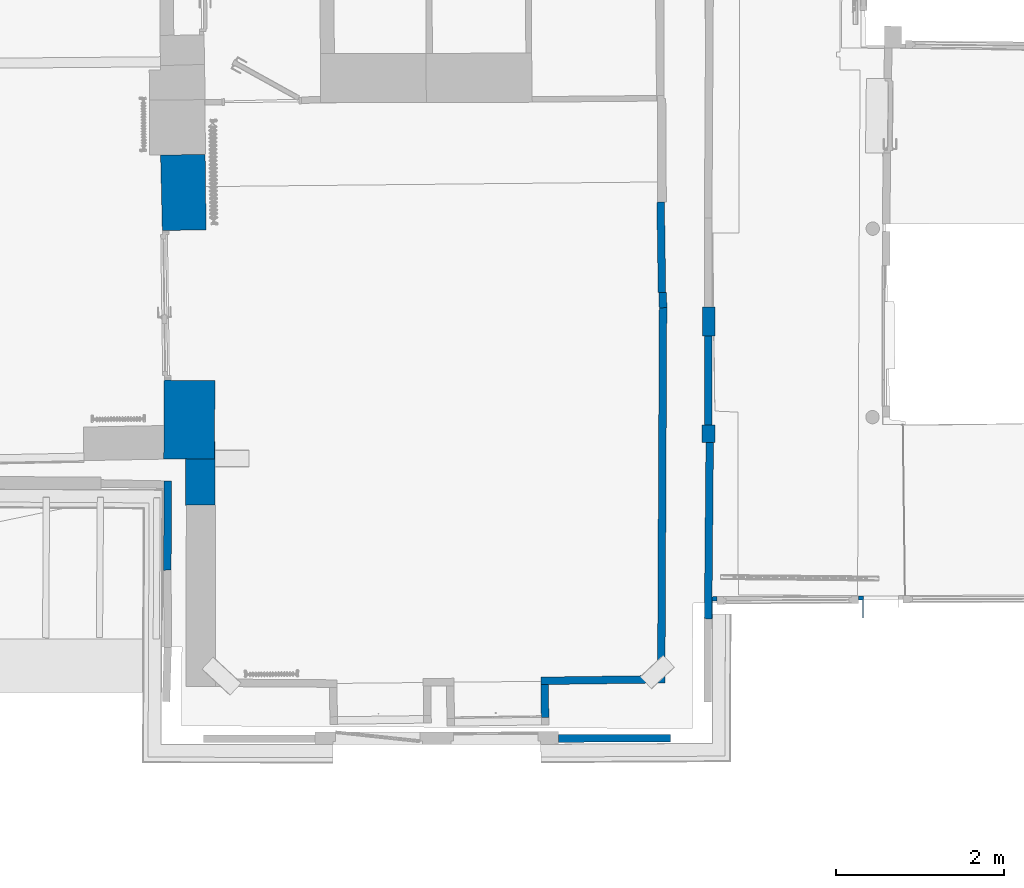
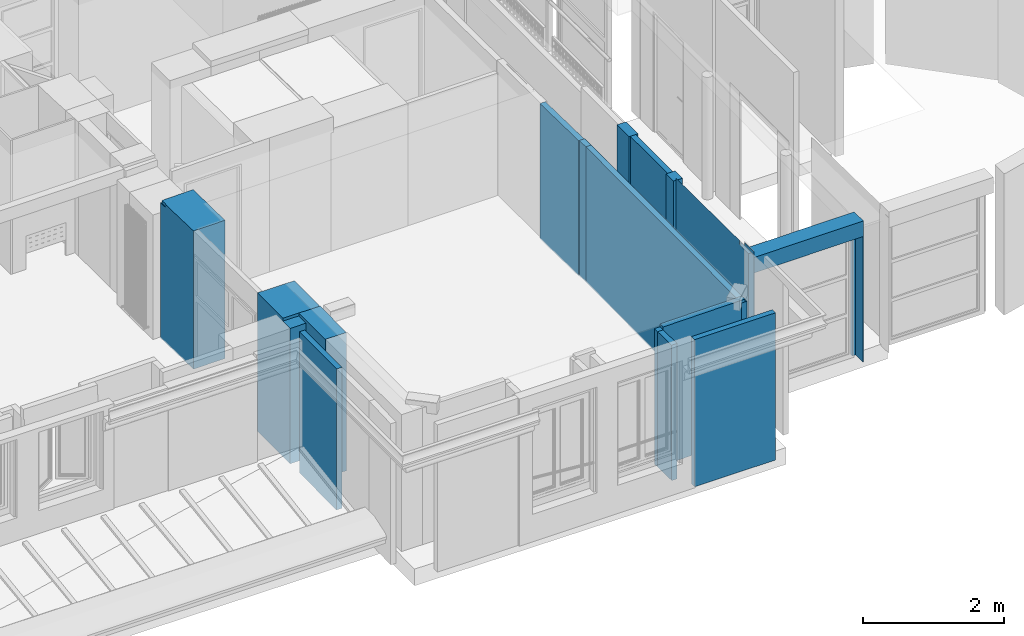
# One storey, part 14 of 72: 15 walls, 1 opening.
"""IFC2X3 building model written with IfcOpenShell, lengths in centimetres."""

import ifcopenshell
import ifcopenshell.guid

model = None  # the IFC model being written
_history = None  # IfcOwnerHistory: only IFC2X3 demands one
_inside = {}  # id of a spatial element -> (the spatial element, [elements in it])
_under = {}  # id of a project, library or spatial element -> (it, [spatial elements below it])
_declared = {}  # id of a project -> (the project, [libraries it declares])
_typed = {}  # id of a type object -> (the type object, [elements of that type])
_made_of = {}  # id of a material, layer set ... -> (it, [elements and type objects made of it])


def new_model(schema):
    """Start an empty IFC model of exactly this schema.

    Asked for "IFC4X3", IfcOpenShell would pick the latest addendum, in which some entities
    have other attributes; the version numbers below select the first issue.
    IFC2X3 requires an IfcOwnerHistory on every rooted entity: one is made here for all.
    """
    global model, _history
    if schema == "IFC4X3":
        model = ifcopenshell.file(schema_version=(4, 3, 0, 0))
    else:
        model = ifcopenshell.file(schema=schema)
    _inside.clear()
    _under.clear()
    _declared.clear()
    _typed.clear()
    _made_of.clear()
    _history = None
    if model.schema == "IFC2X3":
        org = make("IfcOrganization", Name="unknown")
        user = make(
            "IfcPersonAndOrganization",
            ThePerson=make("IfcPerson", FamilyName="unknown"),
            TheOrganization=org,
        )
        app = make(
            "IfcApplication",
            ApplicationDeveloper=org,
            Version="unknown",
            ApplicationFullName="unknown",
            ApplicationIdentifier="unknown",
        )
        _history = make(
            "IfcOwnerHistory",
            OwningUser=user,
            OwningApplication=app,
            ChangeAction="ADDED",
            CreationDate=0,
        )
    return model


def make(cls, **values):
    """One entity of the class cls with the attributes given. An attribute that is None is left unset."""
    return model.create_entity(
        cls, **{name: value for name, value in values.items() if value is not None}
    )


def entity(cls, *values):
    """Any entity or typed value of the class cls, its attributes in the order of the schema. None: left unset."""
    e = model.create_entity(cls)
    for i, value in enumerate(values):
        if value is not None:
            e[i] = value
    return e


def rooted(cls, **values):
    """An entity with a GlobalId (a new one), such as an element, a storey or a relation."""
    return make(cls, GlobalId=ifcopenshell.guid.new(), OwnerHistory=_history, **values)


def si_unit(unit_type, name, prefix=None):
    """IfcSIUnit, for example si_unit("LENGTHUNIT", "METRE", prefix="MILLI")."""
    return make("IfcSIUnit", UnitType=unit_type, Prefix=prefix, Name=name)


def converted_unit(unit_type, name, factor, base, dimensions=None, offset=None):
    """IfcConversionBasedUnit, such as the inch: factor (a typed value) times the base unit."""
    return make(
        "IfcConversionBasedUnit"
        if offset is None
        else "IfcConversionBasedUnitWithOffset",
        ConversionOffset=offset,
        Dimensions=None
        if dimensions is None
        else entity("IfcDimensionalExponents", *dimensions),
        UnitType=unit_type,
        Name=name,
        ConversionFactor=make(
            "IfcMeasureWithUnit", ValueComponent=factor, UnitComponent=base
        ),
    )


def assignment(units):
    """IfcUnitAssignment: the units of a project."""
    return None if units is None else make("IfcUnitAssignment", Units=units)


def point(xyz):
    """IfcCartesianPoint."""
    return None if xyz is None else make("IfcCartesianPoint", Coordinates=xyz)


def direction(xyz):
    """IfcDirection."""
    return None if xyz is None else make("IfcDirection", DirectionRatios=xyz)


def frame(location, z_axis=None, x_axis=None):
    """IfcAxis2Placement3D, a coordinate frame: its origin and axes. An axis left out is left unset."""
    return make(
        "IfcAxis2Placement3D",
        Location=point(location),
        Axis=direction(z_axis),
        RefDirection=direction(x_axis),
    )


def frame_2d(location, x_axis=None):
    """IfcAxis2Placement2D, a coordinate frame in the plane: its origin and x axis."""
    return make(
        "IfcAxis2Placement2D", Location=point(location), RefDirection=direction(x_axis)
    )


def origin():
    """The frame at (0, 0, 0) with its axes left unset."""
    return frame((0.0, 0.0, 0.0))


def origin_with_axes():
    """The frame at (0, 0, 0) with the z axis (0, 0, 1) and the x axis (1, 0, 0) written out."""
    return frame((0.0, 0.0, 0.0), z_axis=(0.0, 0.0, 1.0), x_axis=(1.0, 0.0, 0.0))


def origin_2d_with_axis():
    """The frame at (0, 0) in the plane with the x axis (1, 0) written out."""
    return frame_2d((0.0, 0.0), x_axis=(1.0, 0.0))


def place(relative_to, where):
    """IfcLocalPlacement: puts the frame where relative to a parent placement (None: the world)."""
    return make(
        "IfcLocalPlacement", PlacementRelTo=relative_to, RelativePlacement=where
    )


def context(
    kind, dimensions, precision=None, world=None, true_north=None, identifier=None
):
    """IfcGeometricRepresentationContext, for example the 3D "Model" context."""
    return make(
        "IfcGeometricRepresentationContext",
        ContextIdentifier=identifier,
        ContextType=kind,
        CoordinateSpaceDimension=dimensions,
        Precision=precision,
        WorldCoordinateSystem=world,
        TrueNorth=true_north,
    )


def subcontext(parent, identifier, kind, view, scale=None):
    """IfcGeometricRepresentationSubContext, for example "Body" below "Model"."""
    return make(
        "IfcGeometricRepresentationSubContext",
        ContextIdentifier=identifier,
        ContextType=kind,
        ParentContext=parent,
        TargetScale=scale,
        TargetView=view,
    )


def project(units=None, contexts=None):
    """IfcProject with its units and contexts."""
    return rooted(
        "IfcProject",
        Name="project",
        RepresentationContexts=contexts,
        UnitsInContext=assignment(units),
    )


def spatial(cls, under=None, at=None, **own):
    """A site, building, storey or space (cls), placed at a placement, below another one or the project."""
    s = rooted(cls, ObjectPlacement=at, **own)
    if under is not None:
        _under.setdefault(under.id(), (under, []))[1].append(s)
    return s


def polyline(points):
    """IfcPolyline through the points."""
    return make("IfcPolyline", Points=[point(p) for p in points])


def profile(cls, at=None, kind="AREA", **sizes):
    """A parametric profile (cls). Its sizes go by their IFC names, for example OverallWidth=200.0."""
    return make(cls, ProfileType=kind, Position=at, **sizes)


def rectangle(**sizes):
    """IfcRectangleProfileDef."""
    return profile("IfcRectangleProfileDef", **sizes)


def outline(outer, holes=None, kind="AREA"):
    """IfcArbitraryClosedProfileDef: a profile drawn as a closed curve; with holes, ...WithVoids."""
    if holes is None:
        return make("IfcArbitraryClosedProfileDef", ProfileType=kind, OuterCurve=outer)
    return make(
        "IfcArbitraryProfileDefWithVoids",
        ProfileType=kind,
        OuterCurve=outer,
        InnerCurves=holes,
    )


def extrude(swept, where, along, depth):
    """IfcExtrudedAreaSolid: the profile swept, set in the frame where, extruded along a direction by depth."""
    return make(
        "IfcExtrudedAreaSolid",
        SweptArea=swept,
        Position=where,
        ExtrudedDirection=direction(along),
        Depth=depth,
    )


def clip(a, b, op="DIFFERENCE"):
    """IfcBooleanClippingResult: the solid a cut by the half space b."""
    return make(
        "IfcBooleanClippingResult", Operator=op, FirstOperand=a, SecondOperand=b
    )


def bounded_halfspace(plane, agree, where, boundary):
    """IfcPolygonalBoundedHalfSpace: a half space limited to a polygon's prism."""
    return make(
        "IfcPolygonalBoundedHalfSpace",
        BaseSurface=make("IfcPlane", Position=plane),
        AgreementFlag=agree,
        Position=where,
        PolygonalBoundary=boundary,
    )


def faces_of(points, faces, orient=None, outer=None):
    """IfcFace entities. A face is a list of loops; a loop is a list of indices into points, from 0.

    orient and outer hold one flag for each loop. By default every Orientation is true, the
    first loop of a face is its IfcFaceOuterBound and the others are IfcFaceBound.
    """
    made = []
    for i, loops in enumerate(faces):
        bounds = []
        for j, loop in enumerate(loops):
            is_outer = j == 0 if outer is None else outer[i][j]
            bounds.append(
                make(
                    "IfcFaceOuterBound" if is_outer else "IfcFaceBound",
                    Bound=make("IfcPolyLoop", Polygon=[points[k] for k in loop]),
                    Orientation=True if orient is None else orient[i][j],
                )
            )
        made.append(make("IfcFace", Bounds=bounds))
    return made


def faceted_brep(points, faces, orient=None, outer=None, voids=None):
    """IfcFacetedBrep: a solid bounded by flat faces; with voids (closed shells), ...WithVoids."""
    shared = [point(p) for p in points]
    hull = make("IfcClosedShell", CfsFaces=faces_of(shared, faces, orient, outer))
    if voids is None:
        return make("IfcFacetedBrep", Outer=hull)
    return make(
        "IfcFacetedBrepWithVoids",
        Outer=hull,
        Voids=[
            make(cls, CfsFaces=faces_of(shared, fs, o, b)) for cls, fs, o, b in voids
        ],
    )


def shape(context_of_items, identifier, shape_type, items):
    """IfcShapeRepresentation: the items that make up one representation, for example the "Body"."""
    return make(
        "IfcShapeRepresentation",
        ContextOfItems=context_of_items,
        RepresentationIdentifier=identifier,
        RepresentationType=shape_type,
        Items=items,
    )


def material(Name=None, Category=None):
    """IfcMaterial."""
    return make("IfcMaterial", Name=Name, Category=Category)


def layer(
    of_material, thickness, ventilated=None, Name=None, Category=None, Priority=None
):
    """IfcMaterialLayer: one layer of a wall or slab, of a material (None: an air gap)."""
    return make(
        "IfcMaterialLayer",
        Material=of_material,
        LayerThickness=thickness,
        IsVentilated=ventilated,
        Name=Name,
        Category=Category,
        Priority=Priority,
    )


def layer_set(layers, Name=None):
    """IfcMaterialLayerSet."""
    return make("IfcMaterialLayerSet", MaterialLayers=layers, LayerSetName=Name)


def layer_usage(for_layer_set, set_direction, sense, offset, extent=None):
    """IfcMaterialLayerSetUsage: how a layer set lies in its element."""
    return make(
        "IfcMaterialLayerSetUsage",
        ForLayerSet=for_layer_set,
        LayerSetDirection=set_direction,
        DirectionSense=sense,
        OffsetFromReferenceLine=offset,
        ReferenceExtent=extent,
    )


def made_of(thing, what):
    """Note that an element or type object is made of a material, layer set ...; save() writes the relation."""
    if what is not None:
        _made_of.setdefault(what.id(), (what, []))[1].append(thing)
    return thing


def type_object(cls, material=None, **own):
    """A type object (cls), such as IfcWallType, which elements share."""
    return made_of(rooted(cls, **own), material)


def element(
    cls,
    number,
    at=None,
    inside=None,
    cuts=None,
    type_object=None,
    material=None,
    context=None,
    identifier="Body",
    shape_type=None,
    held_by="IfcProductDefinitionShape",
    body=None,
    shapes=None,
    **own,
):
    """One element of the class cls, such as IfcWall. Its Tag is "e" and its number.

    at: its placement. inside: the storey or other place that contains it. cuts: it is an
    opening in that element (IfcRelVoidsElement). A single representation is given by context,
    identifier, shape_type and body (its items); several are given by shapes. held_by: the class
    of the entity that holds the representations. save() writes the other relations.
    """
    e = rooted(cls, Tag="e%d" % number, ObjectPlacement=at, **own)
    if body is not None:
        shapes = [shape(context, identifier, shape_type, body)]
    if shapes is not None:
        e.Representation = make(held_by, Representations=shapes)
    if inside is not None:
        _inside.setdefault(inside.id(), (inside, []))[1].append(e)
    if cuts is not None:
        rooted(
            "IfcRelVoidsElement", RelatingBuildingElement=cuts, RelatedOpeningElement=e
        )
    if type_object is not None:
        _typed.setdefault(type_object.id(), (type_object, []))[1].append(e)
    return made_of(e, material)


def aggregate(whole, parts):
    """IfcRelAggregates: a whole, such as a stair, and the parts it consists of."""
    return rooted("IfcRelAggregates", RelatingObject=whole, RelatedObjects=parts)


def save(model, path):
    """Write the relations noted so far, then the file.

    IfcRelAggregates (storeys below a building ...), IfcRelContainedInSpatialStructure (elements
    in a storey), IfcRelDefinesByType, IfcRelAssociatesMaterial and IfcRelDeclares: one each for
    every whole, place, type object, material and project.
    """
    for whole, parts in _under.values():
        aggregate(whole, parts)
    for where, things in _inside.values():
        rooted(
            "IfcRelContainedInSpatialStructure",
            RelatedElements=things,
            RelatingStructure=where,
        )
    for kind, things in _typed.values():
        rooted("IfcRelDefinesByType", RelatedObjects=things, RelatingType=kind)
    for what, things in _made_of.values():
        rooted("IfcRelAssociatesMaterial", RelatedObjects=things, RelatingMaterial=what)
    for by, libraries in _declared.values():
        rooted("IfcRelDeclares", RelatingContext=by, RelatedDefinitions=libraries)
    model.write(path)


model = new_model("IFC2X3")

# Units and contexts
model_context = context("Model", 3, precision=0.0001, world=origin(), true_north=direction((0.225632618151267, 0.974212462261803, 0.0)))
body_context = subcontext(model_context, "Body", "Model", "MODEL_VIEW")
footprint_context = subcontext(model_context, "FootPrint", "Model", "MODEL_VIEW")
profile_context = subcontext(model_context, "Profile", "Model", "MODEL_VIEW")
ifc_project = project(units=[si_unit("LENGTHUNIT", "METRE", prefix="CENTI"), si_unit("AREAUNIT", "SQUARE_METRE", prefix="CENTI"), si_unit("VOLUMEUNIT", "CUBIC_METRE", prefix="CENTI"), converted_unit("PLANEANGLEUNIT", "DEGREE", entity("IfcRatioMeasure", 0.0174532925), si_unit("PLANEANGLEUNIT", "RADIAN"), dimensions=[0, 0, 0, 0, 0, 0, 0])], contexts=[model_context])

# Site, building, storey
site_placement = place(None, origin_with_axes())
site = spatial("IfcSite", under=ifc_project, at=site_placement, Name="Default Site", CompositionType="ELEMENT")
building_placement = place(site_placement, origin_with_axes())
building = spatial("IfcBuilding", under=site, at=building_placement, Name="Default Building", CompositionType="ELEMENT")
storey_placement = place(building_placement, frame((0.0, 0.0, 853.910374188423), z_axis=(0.0, 0.0, 1.0), x_axis=(1.0, 0.0, 0.0)))
storey = spatial("IfcBuildingStorey", under=building, at=storey_placement, Name="Niveau 2", CompositionType="ELEMENT", Elevation=853.910374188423)

# Wall, opening
ifc_material = material(Name="<aucun>")
ifc_layer_1 = layer(ifc_material, 26.0)
ifc_layer_set_1 = layer_set([ifc_layer_1], Name="default")
ifc_layer_usage_1 = layer_usage(ifc_layer_set_1, "AXIS2", "POSITIVE", -13.0)
wall_type_1 = type_object("IfcWallType", Name="default 260", PredefinedType="NOTDEFINED", material=ifc_layer_set_1)
wall_1_placement = place(storey_placement, frame((894.35081845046, -887.212370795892, 7.46069872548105e-12), z_axis=(0.0, 0.0, 1.0), x_axis=(0.999986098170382, 0.00527289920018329, 0.0)))
wall_1 = element("IfcWallStandardCase", 1, at=wall_1_placement, inside=storey, type_object=wall_type_1, material=ifc_layer_usage_1, Name="Enveloppe 539435", context=body_context, shape_type="SweptSolid", body=[
    extrude(outline(polyline([(-0.000936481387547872, -13.0000000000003), (180.225040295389, -12.9999999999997), (180.225040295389, 13.0000000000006), (0.369743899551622, 13.0000000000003), (-0.000936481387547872, -13.0000000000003)])), frame((0.0, 0.0, -7.105427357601e-12), z_axis=(0.0, 0.0, 1.0), x_axis=(1.0, 0.0, 0.0)), (0.0, 0.0, 1.0), 244.999999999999),
])
opening_placement = place(wall_1_placement, frame((0.982365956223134, 0.0, 3.5349501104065e-13), z_axis=(0.0, 0.0, 1.0), x_axis=(-1.0, -2.10335221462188e-15, 0.0)))
cartesian_point_1 = entity("IfcCartesianPoint", [0.0, 0.0, 218.0])
cartesian_point_2 = entity("IfcCartesianPoint", [-178.282845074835, -13.0000000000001])
element("IfcOpeningElement", 2, at=opening_placement, cuts=wall_1, Name="4294966494_11", ObjectType="Opening", shapes=[
    shape(body_context, "Body", "Brep", [faceted_brep([(-4.99997728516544, -32.9999955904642, 218.000007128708), (-173.282822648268, -32.9999955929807, 218.000007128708), (-173.282822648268, -32.9999955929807, -2.33888702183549e-05), (-4.99997728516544, -32.9999955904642, -2.33888702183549e-05), (3.15236590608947e-05, 33.0000052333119, -2.33888702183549e-05), (-178.282800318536, 33.0000052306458, -2.33888702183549e-05), (-178.282800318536, 33.0000052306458, 218.000007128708), (3.15236590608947e-05, 33.0000052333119, 218.000007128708), (-4.99997728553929, -8.00002964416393, -2.33888702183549e-05), (-4.99997728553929, -8.00002964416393, 218.000007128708), (-4.99995277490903, -8.00002964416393, 218.000007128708), (-4.99995277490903, -8.00002964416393, -2.33888702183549e-05), (4.0716068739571e-05, -8.00002964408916, -2.33888702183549e-05), (4.0716068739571e-05, -8.00002964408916, 218.000007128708), (4.07160687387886e-05, -7.99997732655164, 218.000007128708), (4.07160687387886e-05, -7.99997732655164, -2.33888702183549e-05), (4.07154556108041e-05, 33.0000052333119, -2.33888702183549e-05), (4.07154556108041e-05, 33.0000052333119, 218.000007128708), (-173.282822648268, -32.9999556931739, -2.33888702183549e-05), (-173.282798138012, -7.99998974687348, -2.33888702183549e-05), (-178.282886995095, -8.00004156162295, -2.33888702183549e-05), (-178.282800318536, 33.0000358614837, -2.33888702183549e-05), (-173.282822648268, -32.9999556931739, 218.000007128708), (-173.282822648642, -7.99998974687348, 218.000007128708), (-173.282822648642, -7.99998974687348, -2.33888702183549e-05), (-173.282798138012, -7.99998974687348, 218.000007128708), (-178.282886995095, -7.99998974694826, 218.000007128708), (-178.282886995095, -7.99998974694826, -2.33888702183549e-05), (-178.282886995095, -8.00004156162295, 218.000007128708), (-178.282886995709, 33.0000358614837, 218.000007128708), (-178.282886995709, 33.0000358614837, -2.33888702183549e-05), (-178.282800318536, 33.0000358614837, 218.000007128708)], [[[0, 1, 2, 3]], [[4, 5, 6, 7]], [[0, 3, 8, 9]], [[10, 11, 12, 13]], [[14, 15, 16, 17]], [[3, 18, 19, 20, 21, 4, 15, 11]], [[18, 22, 23, 24]], [[19, 25, 26, 27]], [[20, 28, 29, 30]], [[10, 14, 7, 31, 28, 25, 22, 0]]])]),
    shape(profile_context, "Profile", "GeometricCurveSet", [entity("IfcGeometricCurveSet", [entity("IfcPolyline", [cartesian_point_1, entity("IfcCartesianPoint", [0.0, 0.0, 0.0]), entity("IfcCartesianPoint", [-178.282845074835, -1.77635683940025e-13, 0.0]), entity("IfcCartesianPoint", [-178.282845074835, -1.77635683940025e-13, 218.0]), cartesian_point_1])])]),
    shape(footprint_context, "FootPrint", "GeometricCurveSet", [entity("IfcGeometricCurveSet", [entity("IfcPolyline", [cartesian_point_2, entity("IfcCartesianPoint", [-1.77635683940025e-13, -13.0000000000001]), entity("IfcCartesianPoint", [0.0, 13.0000000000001]), entity("IfcCartesianPoint", [-178.282845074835, 12.9999999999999]), cartesian_point_2])])]),
])

# Walls
ifc_layer_2 = layer(ifc_material, 9.0)
ifc_layer_set_2 = layer_set([ifc_layer_2], Name="default")
ifc_layer_usage_2 = layer_usage(ifc_layer_set_2, "AXIS2", "POSITIVE", -4.5)
wall_type_2 = type_object("IfcWallType", Name="default 90", PredefinedType="NOTDEFINED", material=ifc_layer_set_2)
wall_2_placement = place(storey_placement, frame((696.113556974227, -1026.60529789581, -1.95399252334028e-11), z_axis=(0.0, 0.0, 1.0), x_axis=(-0.0132624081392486, 0.999912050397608, 0.0)))
element("IfcWallStandardCase", 3, at=wall_2_placement, inside=storey, type_object=wall_type_2, material=ifc_layer_usage_2, Name="Enveloppe 466654", context=body_context, shape_type="SweptSolid", body=[
    extrude(rectangle(XDim=8.99999999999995, YDim=38.9371059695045, at=origin_2d_with_axis()), frame((28.4685529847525, 8.88178419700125e-14, 1.97175609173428e-11), z_axis=(0.0, 0.0, 1.0), x_axis=(1.31838984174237e-16, -1.0, 0.0)), (0.0, 0.0, 1.0), 234.999999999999),
])
ifc_layer_usage_3 = layer_usage(ifc_layer_set_2, "AXIS2", "POSITIVE", -4.5)
wall_3_placement = place(storey_placement, frame((889.910081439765, -670.120761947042, -1.95399252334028e-11), z_axis=(0.0, 0.0, 1.0), x_axis=(0.000515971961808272, 0.999999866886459, 0.0)))
element("IfcWallStandardCase", 4, at=wall_3_placement, inside=storey, type_object=wall_type_2, material=ifc_layer_usage_3, Name="Enveloppe 462633", context=body_context, shape_type="SweptSolid", body=[
    extrude(rectangle(XDim=106.020259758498, YDim=9.00000000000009, at=origin_2d_with_axis()), frame((53.1438492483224, 5.32907051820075e-13, 1.98951966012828e-11), z_axis=(0.0, 0.0, 1.0), x_axis=(1.0, 1.03536970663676e-14, 0.0)), (0.0, 0.0, 1.0), 254.621625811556),
])
ifc_layer_usage_4 = layer_usage(ifc_layer_set_2, "AXIS2", "POSITIVE", -4.5)
wall_4_placement = place(storey_placement, frame((246.771953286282, -842.616172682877, -1.95399252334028e-11), z_axis=(0.0, 0.0, 1.0), x_axis=(0.0035813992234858, 0.999993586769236, 0.0)))
element("IfcWallStandardCase", 5, at=wall_4_placement, inside=storey, type_object=wall_type_2, material=ifc_layer_usage_4, Name="Enveloppe 461879", context=body_context, shape_type="Clipping", body=[
    clip(extrude(outline(polyline([(-0.0968061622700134, 4.56459957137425), (-0.0210222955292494, -4.43479407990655), (0.0383607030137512, -4.43458140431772), (0.0385949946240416, -4.49999999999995), (106.304960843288, -4.49957496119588), (106.304962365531, 4.49999999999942), (0.0034458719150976, 4.49999999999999), (0.00321149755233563, 4.56544170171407), (-0.0968061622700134, 4.56459957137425)])), frame((0.0, 0.0, 1.98951966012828e-11), z_axis=(0.0, 0.0, 1.0), x_axis=(1.0, 0.0, 0.0)), (0.0, 0.0, 1.0), 244.999999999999), bounded_halfspace(frame((106.304962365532, -4.50000000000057, 235.000000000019), z_axis=(0.0, 0.0, 1.0), x_axis=(-1.0, 4.78167852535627e-14, 0.0)), True, frame((106.304962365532, -4.50000000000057, 235.000000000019), z_axis=(0.0, 0.0, 1.0), x_axis=(1.0, 0.0, 0.0)), polyline([(-0.11868029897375, 0.0), (0.0, 8.51953152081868), (1.77635683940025e-13, 0.0), (-0.11868029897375, 0.0)]))),
])
ifc_layer_usage_5 = layer_usage(ifc_layer_set_2, "AXIS2", "POSITIVE", -4.5)
wall_5_placement = place(storey_placement, frame((711.726258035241, -1042.78696052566, -1.95399252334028e-11), z_axis=(0.0, 0.0, 1.0), x_axis=(0.99999978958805, 0.000648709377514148, 0.0)))
element("IfcWallStandardCase", 6, at=wall_5_placement, inside=storey, type_object=wall_type_2, material=ifc_layer_usage_5, Name="Enveloppe 462360", context=body_context, shape_type="SweptSolid", body=[
    extrude(rectangle(XDim=8.99999999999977, YDim=133.394859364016, at=origin_2d_with_axis()), frame((66.8026817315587, -1.77635683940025e-13, 1.95399252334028e-11), z_axis=(0.0, 0.0, 1.0), x_axis=(-1.29020058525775e-17, 1.0, 0.0)), (0.0, 0.0, 1.0), 255.508614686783),
])
ifc_layer_usage_6 = layer_usage(ifc_layer_set_2, "AXIS2", "POSITIVE", -4.5)
wall_6_placement = place(storey_placement, frame((890.034824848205, -887.235128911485, -1.95399252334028e-11), z_axis=(0.0, 0.0, 1.0), x_axis=(0.00898292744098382, 0.999959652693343, 0.0)))
element("IfcWallStandardCase", 7, at=wall_6_placement, inside=storey, type_object=wall_type_2, material=ifc_layer_usage_6, Name="Enveloppe 462413", context=body_context, shape_type="Clipping", body=[
    clip(clip(clip(clip(clip(clip(clip(clip(extrude(outline(polyline([(-13.1667732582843, 4.49999999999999), (-13.1371963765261, -4.38173490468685), (-12.9382332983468, -4.3810687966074), (-12.9371649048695, -4.50000000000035), (196.314953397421, -4.4999999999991), (196.31495179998, 2.23886786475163), (196.363856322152, 2.23930718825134), (196.36385237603, 4.50043927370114), (-13.1667732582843, 4.49999999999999)])), frame((0.0, 0.0, 1.97175609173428e-11), z_axis=(0.0, 0.0, 1.0), x_axis=(1.0, 0.0, 0.0)), (0.0, 0.0, 1.0), 262.029112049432), bounded_halfspace(frame((196.314953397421, 2.23869004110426, 254.621625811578), z_axis=(0.0, 0.0, 1.0), x_axis=(-2.62654481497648e-14, 1.0, 0.0)), True, frame((196.314953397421, 2.23869004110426, 254.621625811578), z_axis=(0.0, 0.0, 1.0), x_axis=(1.0, 0.0, 0.0)), polyline([(0.0, 0.0), (-8.88178419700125e-14, 2.26130995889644), (0.0489029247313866, 2.2613099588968), (0.0489029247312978, 0.000617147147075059), (0.0, 0.0)]))), bounded_halfspace(frame((12.9371649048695, 4.49999999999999, 262.029112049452), z_axis=(-0.0107361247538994, 0.850733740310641, -0.525487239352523), x_axis=(0.00749108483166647, -0.525434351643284, -0.850801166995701)), True, frame((12.9371649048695, 4.49999999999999, 262.029112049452), z_axis=(0.0, 0.0, 1.0), x_axis=(1.0, 0.0, 0.0)), polyline([(0.0, 0.0), (0.128312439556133, -8.99999999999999), (174.584583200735, -8.9999999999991), (174.504935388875, 7.105427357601e-13), (0.0, 0.0)]))), bounded_halfspace(frame((12.9990544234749, 0.158989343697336, 255.000000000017), z_axis=(-0.0107361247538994, 0.850733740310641, -0.525487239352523), x_axis=(0.999894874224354, 0.0142554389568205, 0.00265008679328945)), True, frame((12.9990544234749, 0.158989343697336, 255.000000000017), z_axis=(0.0, 0.0, 1.0), x_axis=(1.0, 0.0, 0.0)), polyline([(-26.1502728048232, -0.330012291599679), (-26.136250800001, -4.54072424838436), (0.0594431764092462, -4.16942105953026), (0.0, -1.77635683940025e-13), (-26.1502728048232, -0.330012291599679)]))), bounded_halfspace(frame((188.442285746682, 4.50000000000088, 258.443402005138), z_axis=(-0.0107361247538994, 0.850733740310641, -0.525487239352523), x_axis=(-0.999791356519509, 4.7791631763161e-15, 0.0204265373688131)), True, frame((188.442285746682, 4.50000000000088, 258.443402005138), z_axis=(0.0, 0.0, 1.0), x_axis=(1.0, 0.0, 0.0)), polyline([(0.0, -1.77635683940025e-13), (0.0795300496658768, -8.99999999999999), (7.87266765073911, -8.99999999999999), (7.87266765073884, -1.77635683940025e-13), (0.0, -1.77635683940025e-13)]))), bounded_halfspace(frame((187.442100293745, 4.50000000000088, 258.463836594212), z_axis=(-0.0107361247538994, 0.850733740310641, -0.525487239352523), x_axis=(-0.999791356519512, -7.33961502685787e-15, 0.0204265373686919)), True, frame((187.442100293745, 4.50000000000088, 258.463836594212), z_axis=(0.0, 0.0, 1.0), x_axis=(1.0, 0.0, 0.0)), polyline([(0.0, -1.77635683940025e-13), (0.0796478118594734, -8.99999999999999), (1.0797155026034, -8.99999999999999), (1.00018545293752, -1.77635683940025e-13), (0.0, -1.77635683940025e-13)]))), bounded_halfspace(frame((-12.9371649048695, -4.50000000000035, 255.000000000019), z_axis=(0.0, 0.0, -1.0), x_axis=(1.0, 8.21044621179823e-15, 0.0)), True, frame((-12.9371649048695, -4.50000000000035, 255.000000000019), z_axis=(0.0, 0.0, 1.0), x_axis=(1.0, 0.0, 0.0)), polyline([(0.0, -1.77635683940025e-13), (26.0026422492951, 3.5527136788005e-13), (25.9956625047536, 0.489568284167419), (-0.00169551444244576, 0.118925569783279), (0.0, -1.77635683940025e-13)]))), bounded_halfspace(frame((-13.1667732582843, 4.49999999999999, 255.000000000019), z_axis=(0.0, 0.0, -1.0), x_axis=(0.00333006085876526, -0.999994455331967, 0.0)), True, frame((-13.1667732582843, 4.49999999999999, 255.000000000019), z_axis=(0.0, 0.0, 1.0), x_axis=(1.0, 0.0, 0.0)), polyline([(0.0, 0.0), (0.0155548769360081, -4.67102294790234), (26.1658276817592, -4.34101065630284), (26.1039381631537, 0.0), (0.0, 0.0)]))), bounded_halfspace(frame((196.314953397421, 4.50000000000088, 258.282557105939), z_axis=(-0.0107361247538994, 0.850733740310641, -0.525487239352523), x_axis=(1.47997933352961e-14, 0.525517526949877, 0.850782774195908)), True, frame((196.314953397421, 4.50000000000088, 258.282557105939), z_axis=(0.0, 0.0, 1.0), x_axis=(1.0, 0.0, 0.0)), polyline([(8.88178419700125e-14, -2.26130995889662), (0.0489029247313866, -2.26069281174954), (0.0489029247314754, 1.77635683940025e-13), (0.0, -1.77635683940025e-13), (8.88178419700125e-14, -2.26130995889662)]))),
])
ifc_layer_usage_7 = layer_usage(ifc_layer_set_2, "AXIS2", "POSITIVE", -4.5)
wall_7_placement = place(storey_placement, frame((699.917718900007, -974.113122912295, 1.4210854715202e-12), z_axis=(0.0, 0.0, 1.0), x_axis=(0.999912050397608, 0.0132624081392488, 0.0)))
element("IfcWallStandardCase", 8, at=wall_7_placement, inside=storey, type_object=wall_type_2, material=ifc_layer_usage_7, Name="Enveloppe 150730", context=body_context, shape_type="Clipping", body=[
    clip(clip(extrude(rectangle(XDim=144.175089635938, YDim=9.00000000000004, at=origin_2d_with_axis()), frame((63.0875448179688, -5.32907051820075e-13, -1.06581410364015e-12), z_axis=(0.0, 0.0, 1.0), x_axis=(1.0, -6.50347831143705e-15, 0.0)), (0.0, 0.0, 1.0), 240.000000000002), bounded_halfspace(frame((135.175089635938, 4.49999999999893, 234.999999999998), z_axis=(0.0, 0.0, 1.0), x_axis=(0.0, -1.0, 0.0)), True, frame((135.175089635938, 4.49999999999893, 234.999999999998), z_axis=(0.0, 0.0, 1.0), x_axis=(1.0, 0.0, 0.0)), polyline([(-5.48107641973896, -8.99999999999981), (-5.31860719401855, 1.77635683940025e-13), (0.0, 1.77635683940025e-13), (0.0, -8.99999999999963), (-5.48107641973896, -8.99999999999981)]))), bounded_halfspace(frame((-9.00000000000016, -4.49999999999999, 234.999999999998), z_axis=(0.0, 0.0, -1.0), x_axis=(1.0, -3.92047505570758e-16, 0.0)), True, frame((-9.00000000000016, -4.49999999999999, 234.999999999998), z_axis=(0.0, 0.0, 1.0), x_axis=(1.0, 0.0, 0.0)), polyline([(0.0, 1.77635683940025e-13), (9.00000000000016, 1.77635683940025e-13), (9.00000000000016, 9.00000000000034), (0.0, 8.99999999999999), (0.0, 1.77635683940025e-13)]))),
])
ifc_layer_usage_8 = layer_usage(ifc_layer_set_2, "AXIS2", "POSITIVE", -4.5)
wall_8_placement = place(storey_placement, frame((835.023747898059, -512.323936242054, 1.4210854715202e-12), z_axis=(0.0, 0.0, 1.0), x_axis=(-0.015008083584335, 0.999887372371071, 0.0)))
element("IfcWallStandardCase", 9, at=wall_8_placement, inside=storey, type_object=wall_type_2, material=ifc_layer_usage_8, Name="Enveloppe 150232", context=body_context, shape_type="SweptSolid", body=[
    extrude(outline(polyline([(107.334580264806, 4.49999999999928), (0.0, 4.49999999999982), (-0.00933994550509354, -5.49999999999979), (0.090660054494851, -5.49999999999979), (0.100000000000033, -4.49999999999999), (107.334580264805, -4.5000000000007), (107.436393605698, 3.55220276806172), (107.334580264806, 3.55349011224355), (107.334580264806, 4.49999999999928)])), frame((0.0, 0.0, -3.5527136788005e-13), z_axis=(0.0, 0.0, 1.0), x_axis=(1.0, 0.0, 0.0)), (0.0, 0.0, 1.0), 234.999999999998),
])
ifc_layer_usage_9 = layer_usage(ifc_layer_set_2, "AXIS2", "POSITIVE", -4.5)
wall_9_placement = place(storey_placement, frame((836.535947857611, -546.440860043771, 1.4210854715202e-12), z_axis=(0.0, 0.0, 1.0), x_axis=(-0.015008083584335, 0.999887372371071, 0.0)))
element("IfcWallStandardCase", 10, at=wall_9_placement, inside=storey, type_object=wall_type_2, material=ifc_layer_usage_9, Name="Enveloppe 150253", context=body_context, shape_type="SweptSolid", body=[
    extrude(rectangle(XDim=9.00000000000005, YDim=18.1508503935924, at=origin_2d_with_axis()), frame((25.0510113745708, -1.77635683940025e-13, 0.0), z_axis=(0.0, 0.0, 1.0), x_axis=(-2.96637714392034e-16, -1.0, 0.0)), (0.0, 0.0, 1.0), 234.999999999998),
])
ifc_layer_usage_10 = layer_usage(ifc_layer_set_2, "AXIS2", "POSITIVE", -4.5)
wall_10_placement = place(storey_placement, frame((834.20246004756, -968.035687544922, 1.4210854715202e-12), z_axis=(0.0, 0.0, 1.0), x_axis=(0.00478736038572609, 0.999988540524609, 0.0)))
element("IfcWallStandardCase", 11, at=wall_10_placement, inside=storey, type_object=wall_type_2, material=ifc_layer_usage_10, Name="Enveloppe 150228", context=body_context, shape_type="SweptSolid", body=[
    extrude(outline(polyline([(-8.87862952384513, 4.49999999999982), (-8.71616029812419, -4.50000000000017), (437.662699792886, -4.49802052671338), (437.484547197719, 4.50021605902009), (-8.87862952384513, 4.49999999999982)])), frame((0.0, 0.0, -3.5527136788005e-13), z_axis=(0.0, 0.0, 1.0), x_axis=(1.0, 0.0, 0.0)), (0.0, 0.0, 1.0), 234.999999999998),
])
ifc_layer_3 = layer(ifc_material, 15.0)
ifc_layer_set_3 = layer_set([ifc_layer_3], Name="default")
ifc_layer_usage_11 = layer_usage(ifc_layer_set_3, "AXIS2", "POSITIVE", -7.5)
wall_type_3 = type_object("IfcWallType", Name="default 150", PredefinedType="NOTDEFINED", material=ifc_layer_set_3)
wall_11_placement = place(storey_placement, frame((890.338867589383, -690.84882119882, -1.95399252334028e-11), z_axis=(0.0, 0.0, 1.0), x_axis=(0.00330565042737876, 0.9999945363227, 0.0)))
element("IfcWallStandardCase", 12, at=wall_11_placement, inside=storey, type_object=wall_type_3, material=ifc_layer_usage_11, Name="Enveloppe 460913", context=body_context, shape_type="SweptSolid", body=[
    extrude(outline(polyline([(-8.88178419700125e-14, 7.50000000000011), (-1.45214382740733e-06, 3.04039480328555), (-0.0489021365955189, 3.04023315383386), (-0.0999983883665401, -5.95962179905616), (-8.88178419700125e-14, -5.9601895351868), (0.0, -7.49999999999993), (20.7728013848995, -7.49999999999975), (20.7728013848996, -4.00258489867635), (20.8728008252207, -4.00225433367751), (20.8476937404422, 4.99769769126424), (20.7728013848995, 4.9974501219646), (20.7728013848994, 7.49999999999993), (-8.88178419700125e-14, 7.50000000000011)])), frame((0.0, 0.0, 1.98951966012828e-11), z_axis=(0.0, 0.0, 1.0), x_axis=(1.0, 0.0, 0.0)), (0.0, 0.0, 1.0), 254.621625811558),
])
ifc_layer_usage_12 = layer_usage(ifc_layer_set_3, "AXIS2", "POSITIVE", -7.5)
wall_12_placement = place(storey_placement, frame((890.767974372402, -563.871053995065, -1.95399252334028e-11), z_axis=(0.0, 0.0, 1.0), x_axis=(0.00124058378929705, 0.999999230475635, 0.0)))
element("IfcWallStandardCase", 13, at=wall_12_placement, inside=storey, type_object=wall_type_3, material=ifc_layer_usage_12, Name="Enveloppe 461013", context=body_context, shape_type="SweptSolid", body=[
    extrude(outline(polyline([(0.0, 7.49999999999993), (-6.40106634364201e-08, 5.30312393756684), (-0.0999999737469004, 5.30299987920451), (-0.0934784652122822, -3.69699775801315), (-5.98362248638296e-08, -3.6968817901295), (0.0, -7.49999999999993), (34.1376005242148, -7.49999999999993), (34.1376005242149, -3.67219349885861), (34.2376004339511, -3.67206944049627), (34.231078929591, 5.32792483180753), (34.1376005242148, 5.32780886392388), (34.1376005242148, 7.50000000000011), (0.0, 7.49999999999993)])), frame((0.0, 0.0, 1.98951966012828e-11), z_axis=(0.0, 0.0, 1.0), x_axis=(1.0, 0.0, 0.0)), (0.0, 0.0, 1.0), 254.621625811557),
])
ifc_layer_4 = layer(ifc_material, 52.0)
ifc_layer_set_4 = layer_set([ifc_layer_4], Name="default")
ifc_layer_usage_13 = layer_usage(ifc_layer_set_4, "AXIS2", "POSITIVE", -26.0)
wall_type_4 = type_object("IfcWallType", Name="default 520", PredefinedType="NOTDEFINED", material=ifc_layer_set_4)
wall_13_placement = place(storey_placement, frame((266.750367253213, -438.223859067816, 1.4210854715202e-12), z_axis=(0.0, 0.0, 1.0), x_axis=(-0.0117630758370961, 0.999930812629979, 0.0)))
element("IfcWallStandardCase", 14, at=wall_13_placement, inside=storey, type_object=wall_type_4, material=ifc_layer_usage_13, Name="Enveloppe 150804", context=body_context, shape_type="Clipping", body=[
    clip(clip(clip(clip(clip(clip(extrude(outline(polyline([(90.1381472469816, 27.0530778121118), (0.580994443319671, 26.0067877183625), (-0.0165673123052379, 26.0138173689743), (-8.88178419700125e-14, 18.0125906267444), (-8.88178419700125e-14, -25.9999999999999), (90.1381472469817, -25.9999999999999), (90.1381472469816, 27.0530778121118)])), origin_with_axes(), (0.0, 0.0, 1.0), 240.000000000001), bounded_halfspace(frame((89.7801639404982, 27.0488955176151, 218.5), z_axis=(0.0, 0.0, 1.0), x_axis=(0.999931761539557, 0.011682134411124, 0.0)), True, frame((89.7801639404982, 27.0488955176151, 218.5), z_axis=(0.0, 0.0, 1.0), x_axis=(1.0, 0.0, 0.0)), polyline([(-8.88178419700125e-14, -53.0488955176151), (-4.44089209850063e-14, -4.44089209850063e-14), (0.357983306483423, 0.00418229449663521), (0.357983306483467, -53.048895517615), (-8.88178419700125e-14, -53.0488955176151)]))), bounded_halfspace(frame((76.1691696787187, 25.9864623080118, 234.999999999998), z_axis=(0.0, 0.0, 1.0), x_axis=(-0.0103175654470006, 0.99994677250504, 0.0)), True, frame((76.1691696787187, 25.9864623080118, 234.999999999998), z_axis=(0.0, 0.0, 1.0), x_axis=(1.0, 0.0, 0.0)), polyline([(-8.88178419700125e-14, 0.0), (-0.00932043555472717, 0.903308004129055), (-8.88178419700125e-14, 0.0)]))), bounded_halfspace(frame((76.159849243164, 25.9864623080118, 234.999999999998), z_axis=(0.0, 0.0, 1.0), x_axis=(1.99483138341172e-12, 1.0, 0.0)), True, frame((76.159849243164, 25.9864623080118, 234.999999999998), z_axis=(0.0, 0.0, 1.0), x_axis=(1.0, 0.0, 0.0)), polyline([(4.44089209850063e-14, -51.9864623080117), (0.0, 0.903308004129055), (4.44089209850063e-14, -51.9864623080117)]))), bounded_halfspace(frame((76.1609558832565, 26.7825181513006, 234.999999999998), z_axis=(0.0, 0.0, -1.0), x_axis=(0.999946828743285, 0.0103121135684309, 0.0)), True, frame((76.1609558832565, 26.7825181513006, 234.999999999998), z_axis=(0.0, 0.0, 1.0), x_axis=(1.0, 0.0, 0.0)), polyline([(-4.44089209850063e-14, 0.0), (11.9995083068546, 0.123746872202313), (11.998232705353, 0.247439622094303), (-0.00110664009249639, 0.107252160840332), (-4.44089209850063e-14, 0.0)]))), bounded_halfspace(frame((88.1685340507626, 26.1237453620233, 234.999999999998), z_axis=(0.0, 0.0, -1.0), x_axis=(-0.0103121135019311, 0.99994682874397, 0.0)), True, frame((88.1685340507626, 26.1237453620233, 234.999999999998), z_axis=(0.0, 0.0, 1.0), x_axis=(1.0, 0.0, 0.0)), polyline([(-11.9995040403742, -0.123746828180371), (-4.44089209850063e-14, 0.0), (-0.0069638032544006, 0.675267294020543), (-12.006471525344, 0.551520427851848), (-11.9995040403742, -0.123746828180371)]))), bounded_halfspace(frame((88.7060686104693, -26.0, 234.999999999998), z_axis=(0.0, 0.0, -1.0), x_axis=(1.0, 1.45352480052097e-14, 0.0)), True, frame((88.7060686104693, -26.0, 234.999999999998), z_axis=(0.0, 0.0, 1.0), x_axis=(1.0, 0.0, 0.0)), polyline([(-12.5440060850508, 52.6752657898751), (-0.544498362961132, 52.7990126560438), (-8.88178419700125e-14, 0.0), (1.43207863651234, 4.44089209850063e-14), (1.43207863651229, 53.0530778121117), (-0.546880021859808, 53.0299577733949), (-0.545604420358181, 52.9062650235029), (-12.5451127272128, 52.7825181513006), (-12.5440060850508, 52.6752657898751)]))),
])
ifc_layer_5 = layer(ifc_material, 60.3693237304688)
ifc_layer_set_5 = layer_set([ifc_layer_5], Name="default")
ifc_layer_usage_14 = layer_usage(ifc_layer_set_5, "AXIS2", "POSITIVE", -30.185)
wall_type_5 = type_object("IfcWallType", Name="default 603.693237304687", PredefinedType="NOTDEFINED", material=ifc_layer_set_5)
wall_14_placement = place(storey_placement, frame((272.680309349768, -689.548050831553, 1.4210854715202e-12), z_axis=(0.0, 0.0, 1.0), x_axis=(0.0056616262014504, 0.999983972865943, 0.0)))
element("IfcWallStandardCase", 15, at=wall_14_placement, inside=storey, type_object=wall_type_5, material=ifc_layer_usage_14, Name="Enveloppe 150762", context=body_context, shape_type="Clipping", body=[
    clip(clip(extrude(outline(polyline([(-21.1677762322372, 30.1846629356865), (-20.5321727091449, 4.08780701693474), (-20.5321727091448, -30.1846629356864), (72.6804577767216, -30.1846629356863), (72.6804577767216, 21.8858682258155), (72.8364298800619, 21.8889097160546), (72.6804577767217, 30.1846629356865), (-21.1677762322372, 30.1846629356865)])), origin_with_axes(), (0.0, 0.0, 1.0), 240.0), bounded_halfspace(frame((-20.5321727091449, -30.1846629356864, 234.999999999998), z_axis=(0.0, 0.0, -1.0), x_axis=(1.0, 2.59948312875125e-15, 0.0)), True, frame((-20.5321727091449, -30.1846629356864, 234.999999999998), z_axis=(0.0, 0.0, 1.0), x_axis=(1.0, 0.0, 0.0)), polyline([(0.0, 0.0), (20.532172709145, 4.44089209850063e-14), (20.532172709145, 34.2724699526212), (0.0, 34.2724699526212), (0.0, 0.0)]))), bounded_halfspace(frame((-21.1677762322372, 30.1846629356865, 234.999999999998), z_axis=(0.0, 0.0, -1.0), x_axis=(0.0243483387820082, -0.999703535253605, 0.0)), True, frame((-21.1677762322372, 30.1846629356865, 234.999999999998), z_axis=(0.0, 0.0, 1.0), x_axis=(1.0, 0.0, 0.0)), polyline([(0.0, 0.0), (0.635603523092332, -26.0968559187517), (21.1677762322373, -26.0968559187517), (21.1677762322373, 0.0), (0.0, 0.0)]))),
])
ifc_layer_6 = layer(ifc_material, 35.0)
ifc_layer_set_6 = layer_set([ifc_layer_6], Name="default")
ifc_layer_usage_15 = layer_usage(ifc_layer_set_6, "AXIS2", "POSITIVE", -17.5)
wall_type_6 = type_object("IfcWallType", Name="default 350", PredefinedType="NOTDEFINED", material=ifc_layer_set_6)
wall_15_placement = place(storey_placement, frame((285.660513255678, -765.886031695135, 1.4210854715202e-12), z_axis=(0.0, 0.0, 1.0), x_axis=(0.00566162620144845, 0.999983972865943, 0.0)))
element("IfcWallStandardCase", 16, at=wall_15_placement, inside=storey, type_object=wall_type_6, material=ifc_layer_usage_15, Name="Enveloppe 152957", context=body_context, shape_type="Clipping", body=[
    clip(clip(extrude(outline(polyline([(0.0, 17.5000000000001), (0.0, 16.3957360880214), (0.935767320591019, 16.3988875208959), (0.935767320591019, -17.4999999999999), (76.2632683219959, -17.5), (76.2632683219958, 17.5), (0.0, 17.5000000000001)])), frame((0.0, 0.0, 1.77635683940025e-13), z_axis=(0.0, 0.0, 1.0), x_axis=(1.0, 0.0, 0.0)), (0.0, 0.0, 1.0), 240.000000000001), bounded_halfspace(frame((76.2632683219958, 17.4999999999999, 234.999999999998), z_axis=(0.0, 0.0, 1.0), x_axis=(1.32185928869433e-15, -1.0, 0.0)), True, frame((76.2632683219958, 17.4999999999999, 234.999999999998), z_axis=(0.0, 0.0, 1.0), x_axis=(1.0, 0.0, 0.0)), polyline([(-20.532172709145, -34.2724699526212), (-20.5321727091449, 4.44089209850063e-14), (0.0, 0.0), (-8.88178419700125e-14, -34.2724699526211), (-20.532172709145, -34.2724699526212)]))), bounded_halfspace(frame((45.4754067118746, -7.03792214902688, 236.999999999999), z_axis=(0.0, 0.0, -1.0), x_axis=(-0.999996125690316, -0.00278363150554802, 0.0)), True, frame((45.4754067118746, -7.03792214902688, 236.999999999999), z_axis=(0.0, 0.0, 1.0), x_axis=(1.0, 0.0, 0.0)), polyline([(-0.0934212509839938, -2.36349924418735), (0.0128821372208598, -2.36093952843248), (0.0, 0.0), (-0.0999996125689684, -0.000278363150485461), (-0.0934212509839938, -2.36349924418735)]))),
])

save(model, "model.ifc")
